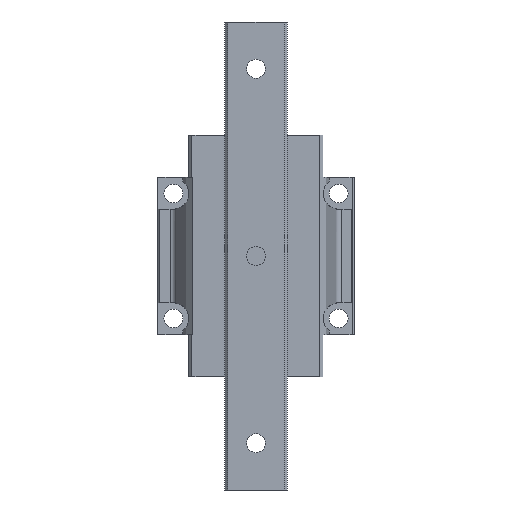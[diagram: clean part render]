
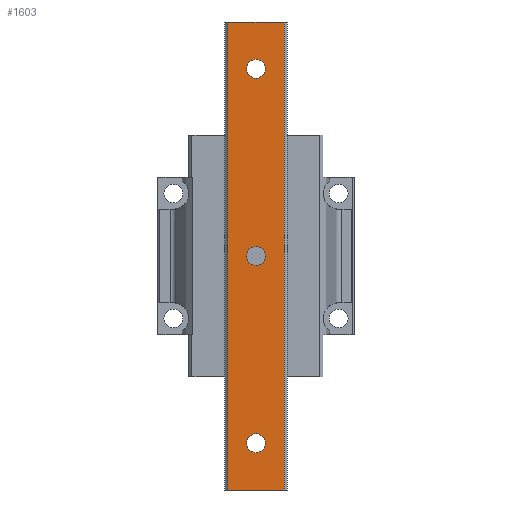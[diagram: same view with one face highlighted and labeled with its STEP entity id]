
A CAD part, front view. The second image highlights one B-rep face of the part: STEP entity #1603.
In plain terms, the highlighted planar face has unit normal (0, -1, 0).
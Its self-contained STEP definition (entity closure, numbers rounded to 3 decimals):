
#110=DIRECTION('',(1.,0.,0.));
#111=VECTOR('',#110,18.);
#112=CARTESIAN_POINT('',(-9.,-17.5,-75.));
#113=LINE('',#112,#111);
#363=DIRECTION('',(0.,0.,1.));
#364=VECTOR('',#363,150.);
#365=CARTESIAN_POINT('',(-9.,-17.5,-75.));
#366=LINE('',#365,#364);
#367=DIRECTION('',(1.,0.,0.));
#368=VECTOR('',#367,18.);
#369=CARTESIAN_POINT('',(-9.,-17.5,75.));
#370=LINE('',#369,#368);
#371=CARTESIAN_POINT('',(0.,-17.5,0.));
#372=DIRECTION('',(0.,-1.,0.));
#373=DIRECTION('',(0.,0.,-1.));
#374=AXIS2_PLACEMENT_3D('',#371,#372,#373);
#376=CARTESIAN_POINT('',(0.,-17.5,0.));
#377=DIRECTION('',(0.,-1.,0.));
#378=DIRECTION('',(1.,0.,0.));
#379=AXIS2_PLACEMENT_3D('',#376,#377,#378);
#381=CARTESIAN_POINT('',(0.,-17.5,0.));
#382=DIRECTION('',(0.,-1.,0.));
#383=DIRECTION('',(0.,0.,1.));
#384=AXIS2_PLACEMENT_3D('',#381,#382,#383);
#386=CARTESIAN_POINT('',(0.,-17.5,0.));
#387=DIRECTION('',(0.,-1.,0.));
#388=DIRECTION('',(-1.,0.,0.));
#389=AXIS2_PLACEMENT_3D('',#386,#387,#388);
#391=CARTESIAN_POINT('',(0.,-17.5,60.));
#392=DIRECTION('',(0.,-1.,0.));
#393=DIRECTION('',(0.,0.,-1.));
#394=AXIS2_PLACEMENT_3D('',#391,#392,#393);
#396=CARTESIAN_POINT('',(0.,-17.5,60.));
#397=DIRECTION('',(0.,-1.,0.));
#398=DIRECTION('',(1.,0.,0.));
#399=AXIS2_PLACEMENT_3D('',#396,#397,#398);
#401=CARTESIAN_POINT('',(0.,-17.5,60.));
#402=DIRECTION('',(0.,-1.,0.));
#403=DIRECTION('',(0.,0.,1.));
#404=AXIS2_PLACEMENT_3D('',#401,#402,#403);
#406=CARTESIAN_POINT('',(0.,-17.5,60.));
#407=DIRECTION('',(0.,-1.,0.));
#408=DIRECTION('',(-1.,0.,0.));
#409=AXIS2_PLACEMENT_3D('',#406,#407,#408);
#411=CARTESIAN_POINT('',(0.,-17.5,-60.));
#412=DIRECTION('',(0.,-1.,0.));
#413=DIRECTION('',(0.,0.,-1.));
#414=AXIS2_PLACEMENT_3D('',#411,#412,#413);
#416=CARTESIAN_POINT('',(0.,-17.5,-60.));
#417=DIRECTION('',(0.,-1.,0.));
#418=DIRECTION('',(1.,0.,0.));
#419=AXIS2_PLACEMENT_3D('',#416,#417,#418);
#421=CARTESIAN_POINT('',(0.,-17.5,-60.));
#422=DIRECTION('',(0.,-1.,0.));
#423=DIRECTION('',(0.,0.,1.));
#424=AXIS2_PLACEMENT_3D('',#421,#422,#423);
#426=CARTESIAN_POINT('',(0.,-17.5,-60.));
#427=DIRECTION('',(0.,-1.,0.));
#428=DIRECTION('',(-1.,0.,0.));
#429=AXIS2_PLACEMENT_3D('',#426,#427,#428);
#431=DIRECTION('',(0.,0.,1.));
#432=VECTOR('',#431,150.);
#433=CARTESIAN_POINT('',(9.,-17.5,-75.));
#434=LINE('',#433,#432);
#885=CARTESIAN_POINT('',(-9.,-17.5,-75.));
#886=VERTEX_POINT('',#885);
#887=CARTESIAN_POINT('',(9.,-17.5,-75.));
#888=VERTEX_POINT('',#887);
#993=CARTESIAN_POINT('',(-9.,-17.5,75.));
#994=VERTEX_POINT('',#993);
#995=CARTESIAN_POINT('',(9.,-17.5,75.));
#996=VERTEX_POINT('',#995);
#997=CARTESIAN_POINT('',(0.,-17.5,-3.));
#998=CARTESIAN_POINT('',(3.,-17.5,0.));
#999=VERTEX_POINT('',#997);
#1000=VERTEX_POINT('',#998);
#1001=CARTESIAN_POINT('',(0.,-17.5,3.));
#1002=VERTEX_POINT('',#1001);
#1003=CARTESIAN_POINT('',(-3.,-17.5,0.));
#1004=VERTEX_POINT('',#1003);
#1005=CARTESIAN_POINT('',(0.,-17.5,57.));
#1006=CARTESIAN_POINT('',(3.,-17.5,60.));
#1007=VERTEX_POINT('',#1005);
#1008=VERTEX_POINT('',#1006);
#1009=CARTESIAN_POINT('',(0.,-17.5,63.));
#1010=VERTEX_POINT('',#1009);
#1011=CARTESIAN_POINT('',(-3.,-17.5,60.));
#1012=VERTEX_POINT('',#1011);
#1013=CARTESIAN_POINT('',(0.,-17.5,-63.));
#1014=CARTESIAN_POINT('',(3.,-17.5,-60.));
#1015=VERTEX_POINT('',#1013);
#1016=VERTEX_POINT('',#1014);
#1017=CARTESIAN_POINT('',(0.,-17.5,-57.));
#1018=VERTEX_POINT('',#1017);
#1019=CARTESIAN_POINT('',(-3.,-17.5,-60.));
#1020=VERTEX_POINT('',#1019);
#1560=CARTESIAN_POINT('',(-9.,-17.5,-75.));
#1561=DIRECTION('',(0.,-1.,0.));
#1562=DIRECTION('',(0.,0.,-1.));
#1563=AXIS2_PLACEMENT_3D('',#1560,#1561,#1562);
#1564=PLANE('',#1563);
#1566=ORIENTED_EDGE('',*,*,#1565,.F.);
#1567=ORIENTED_EDGE('',*,*,#1154,.F.);
#1568=ORIENTED_EDGE('',*,*,#1551,.T.);
#1570=ORIENTED_EDGE('',*,*,#1569,.T.);
#1571=EDGE_LOOP('',(#1566,#1567,#1568,#1570));
#1572=FACE_OUTER_BOUND('',#1571,.F.);
#1574=ORIENTED_EDGE('',*,*,#1573,.T.);
#1576=ORIENTED_EDGE('',*,*,#1575,.T.);
#1578=ORIENTED_EDGE('',*,*,#1577,.T.);
#1580=ORIENTED_EDGE('',*,*,#1579,.T.);
#1581=EDGE_LOOP('',(#1574,#1576,#1578,#1580));
#1582=FACE_BOUND('',#1581,.F.);
#1584=ORIENTED_EDGE('',*,*,#1583,.T.);
#1586=ORIENTED_EDGE('',*,*,#1585,.T.);
#1588=ORIENTED_EDGE('',*,*,#1587,.T.);
#1590=ORIENTED_EDGE('',*,*,#1589,.T.);
#1591=EDGE_LOOP('',(#1584,#1586,#1588,#1590));
#1592=FACE_BOUND('',#1591,.F.);
#1594=ORIENTED_EDGE('',*,*,#1593,.T.);
#1596=ORIENTED_EDGE('',*,*,#1595,.T.);
#1598=ORIENTED_EDGE('',*,*,#1597,.T.);
#1600=ORIENTED_EDGE('',*,*,#1599,.T.);
#1601=EDGE_LOOP('',(#1594,#1596,#1598,#1600));
#1602=FACE_BOUND('',#1601,.F.);
#1603=ADVANCED_FACE('',(#1572,#1582,#1592,#1602),#1564,.T.);
#375=CIRCLE('',#374,3.);
#380=CIRCLE('',#379,3.);
#385=CIRCLE('',#384,3.);
#390=CIRCLE('',#389,3.);
#395=CIRCLE('',#394,3.);
#400=CIRCLE('',#399,3.);
#405=CIRCLE('',#404,3.);
#410=CIRCLE('',#409,3.);
#415=CIRCLE('',#414,3.);
#420=CIRCLE('',#419,3.);
#425=CIRCLE('',#424,3.);
#430=CIRCLE('',#429,3.);
#1154=EDGE_CURVE('',#886,#888,#113,.T.);
#1551=EDGE_CURVE('',#886,#994,#366,.T.);
#1565=EDGE_CURVE('',#888,#996,#434,.T.);
#1569=EDGE_CURVE('',#994,#996,#370,.T.);
#1573=EDGE_CURVE('',#999,#1000,#375,.T.);
#1575=EDGE_CURVE('',#1000,#1002,#380,.T.);
#1577=EDGE_CURVE('',#1002,#1004,#385,.T.);
#1579=EDGE_CURVE('',#1004,#999,#390,.T.);
#1583=EDGE_CURVE('',#1007,#1008,#395,.T.);
#1585=EDGE_CURVE('',#1008,#1010,#400,.T.);
#1587=EDGE_CURVE('',#1010,#1012,#405,.T.);
#1589=EDGE_CURVE('',#1012,#1007,#410,.T.);
#1593=EDGE_CURVE('',#1015,#1016,#415,.T.);
#1595=EDGE_CURVE('',#1016,#1018,#420,.T.);
#1597=EDGE_CURVE('',#1018,#1020,#425,.T.);
#1599=EDGE_CURVE('',#1020,#1015,#430,.T.);
